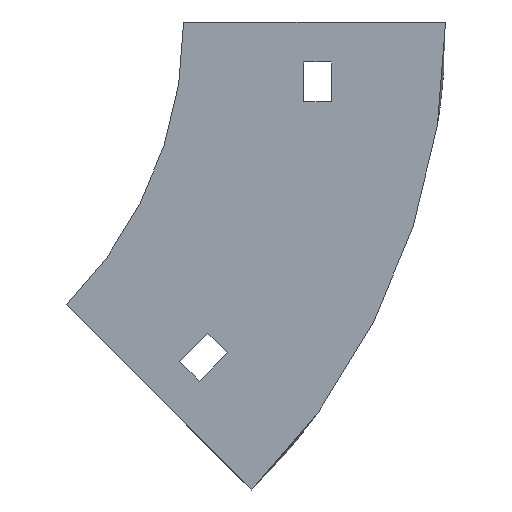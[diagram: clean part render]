
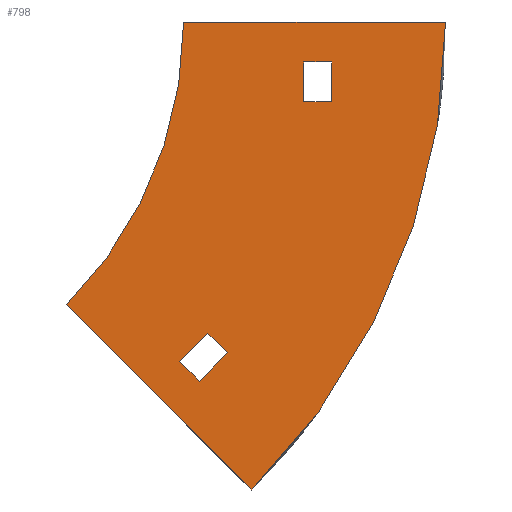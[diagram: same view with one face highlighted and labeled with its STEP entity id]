
A CAD part, left-side view. The second image highlights one B-rep face of the part: STEP entity #798.
In plain terms, the highlighted planar face has unit normal (-1, 0, 0).
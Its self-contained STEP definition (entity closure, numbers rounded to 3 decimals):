
#26 = ORIENTED_EDGE ( 'NONE', *, *, #260, .F. ) ;
#33 = EDGE_CURVE ( 'NONE', #695, #817, #275, .T. ) ;
#64 = VERTEX_POINT ( 'NONE', #1017 ) ;
#68 = CARTESIAN_POINT ( 'NONE',  ( -252., -30., -10. ) ) ;
#74 = VECTOR ( 'NONE', #489, 1000. ) ;
#85 = DIRECTION ( 'NONE',  ( 0., 0.707, -0.707 ) ) ;
#97 = CARTESIAN_POINT ( 'NONE',  ( -252., -65.5, 0. ) ) ;
#111 = EDGE_CURVE ( 'NONE', #64, #695, #728, .T. ) ;
#130 = CARTESIAN_POINT ( 'NONE',  ( -252., -37., -20. ) ) ;
#135 = CARTESIAN_POINT ( 'NONE',  ( -252., 29.289, -70.711 ) ) ;
#139 = CARTESIAN_POINT ( 'NONE',  ( -252., -3.945, -89.803 ) ) ;
#164 = CARTESIAN_POINT ( 'NONE',  ( -252., 0., 0. ) ) ;
#167 = DIRECTION ( 'NONE',  ( 1., 0., 0. ) ) ;
#171 = VECTOR ( 'NONE', #717, 1000. ) ;
#172 = VERTEX_POINT ( 'NONE', #130 ) ;
#179 = CIRCLE ( 'NONE', #1110, 165.5 ) ;
#181 = EDGE_CURVE ( 'NONE', #345, #516, #179, .T. ) ;
#185 = CARTESIAN_POINT ( 'NONE',  ( -252., -65.5, 0. ) ) ;
#203 = ORIENTED_EDGE ( 'NONE', *, *, #181, .F. ) ;
#219 = VECTOR ( 'NONE', #1038, 1000. ) ;
#225 = EDGE_CURVE ( 'NONE', #712, #64, #1048, .T. ) ;
#233 = ORIENTED_EDGE ( 'NONE', *, *, #806, .T. ) ;
#246 = VERTEX_POINT ( 'NONE', #684 ) ;
#251 = ORIENTED_EDGE ( 'NONE', *, *, #746, .T. ) ;
#260 = EDGE_CURVE ( 'NONE', #516, #324, #678, .T. ) ;
#275 = LINE ( 'NONE', #436, #812 ) ;
#286 = CARTESIAN_POINT ( 'NONE',  ( -252., -30., -20. ) ) ;
#311 = EDGE_LOOP ( 'NONE', ( #617, #26, #203, #551 ) ) ;
#322 = CARTESIAN_POINT ( 'NONE',  ( -252., 29.289, -70.711 ) ) ;
#324 = VERTEX_POINT ( 'NONE', #322 ) ;
#326 = DIRECTION ( 'NONE',  ( 0., 0., -1. ) ) ;
#342 = DIRECTION ( 'NONE',  ( 0., 0., -1. ) ) ;
#345 = VERTEX_POINT ( 'NONE', #185 ) ;
#354 = VERTEX_POINT ( 'NONE', #164 ) ;
#355 = AXIS2_PLACEMENT_3D ( 'NONE', #820, #922, #842 ) ;
#358 = EDGE_CURVE ( 'NONE', #817, #712, #541, .T. ) ;
#371 = DIRECTION ( 'NONE',  ( 1., 0., 0. ) ) ;
#379 = LINE ( 'NONE', #729, #734 ) ;
#400 = DIRECTION ( 'NONE',  ( 0., 0.707, 0.707 ) ) ;
#415 = CARTESIAN_POINT ( 'NONE',  ( -252., 100., 0. ) ) ;
#436 = CARTESIAN_POINT ( 'NONE',  ( -252., 1.005, -84.853 ) ) ;
#437 = LINE ( 'NONE', #68, #1037 ) ;
#443 = VECTOR ( 'NONE', #400, 1000. ) ;
#444 = CARTESIAN_POINT ( 'NONE',  ( -252., 1.005, -84.853 ) ) ;
#456 = ORIENTED_EDGE ( 'NONE', *, *, #225, .F. ) ;
#472 = EDGE_CURVE ( 'NONE', #324, #354, #863, .T. ) ;
#489 = DIRECTION ( 'NONE',  ( 0., -0.707, 0.707 ) ) ;
#512 = LINE ( 'NONE', #765, #1005 ) ;
#516 = VERTEX_POINT ( 'NONE', #903 ) ;
#518 = FACE_BOUND ( 'NONE', #1039, .T. ) ;
#535 = ORIENTED_EDGE ( 'NONE', *, *, #1090, .T. ) ;
#541 = LINE ( 'NONE', #444, #171 ) ;
#551 = ORIENTED_EDGE ( 'NONE', *, *, #902, .F. ) ;
#554 = DIRECTION ( 'NONE',  ( 0., 0., -1. ) ) ;
#559 = CARTESIAN_POINT ( 'NONE',  ( -252., 100., 0. ) ) ;
#560 = CARTESIAN_POINT ( 'NONE',  ( -252., -30., -10. ) ) ;
#573 = CARTESIAN_POINT ( 'NONE',  ( -252., -6.066, -77.782 ) ) ;
#588 = CARTESIAN_POINT ( 'NONE',  ( -252., 1.005, -84.853 ) ) ;
#615 = VECTOR ( 'NONE', #326, 1000. ) ;
#617 = ORIENTED_EDGE ( 'NONE', *, *, #472, .F. ) ;
#618 = DIRECTION ( 'NONE',  ( 0., -1., 0. ) ) ;
#640 = CARTESIAN_POINT ( 'NONE',  ( -252., -6.066, -77.782 ) ) ;
#663 = ORIENTED_EDGE ( 'NONE', *, *, #33, .F. ) ;
#669 = EDGE_LOOP ( 'NONE', ( #954, #663, #731, #456 ) ) ;
#678 = LINE ( 'NONE', #135, #219 ) ;
#683 = DIRECTION ( 'NONE',  ( 0., 1., 0. ) ) ;
#684 = CARTESIAN_POINT ( 'NONE',  ( -252., -37., -10. ) ) ;
#695 = VERTEX_POINT ( 'NONE', #573 ) ;
#712 = VERTEX_POINT ( 'NONE', #751 ) ;
#717 = DIRECTION ( 'NONE',  ( 0., -0.707, -0.707 ) ) ;
#728 = LINE ( 'NONE', #640, #443 ) ;
#729 = CARTESIAN_POINT ( 'NONE',  ( -252., -30., -10. ) ) ;
#731 = ORIENTED_EDGE ( 'NONE', *, *, #111, .F. ) ;
#734 = VECTOR ( 'NONE', #1088, 1000. ) ;
#746 = EDGE_CURVE ( 'NONE', #246, #172, #1127, .T. ) ;
#751 = CARTESIAN_POINT ( 'NONE',  ( -252., -3.945, -89.803 ) ) ;
#765 = CARTESIAN_POINT ( 'NONE',  ( -252., -30., -20. ) ) ;
#766 = AXIS2_PLACEMENT_3D ( 'NONE', #415, #167, #342 ) ;
#798 = ADVANCED_FACE ( 'NONE', ( #1134, #518, #874 ), #949, .F. ) ;
#804 = ORIENTED_EDGE ( 'NONE', *, *, #1140, .T. ) ;
#806 = EDGE_CURVE ( 'NONE', #172, #856, #512, .T. ) ;
#811 = LINE ( 'NONE', #97, #864 ) ;
#812 = VECTOR ( 'NONE', #85, 1000. ) ;
#817 = VERTEX_POINT ( 'NONE', #588 ) ;
#820 = CARTESIAN_POINT ( 'NONE',  ( -252., 100., 0. ) ) ;
#842 = DIRECTION ( 'NONE',  ( 0., 0., -1. ) ) ;
#856 = VERTEX_POINT ( 'NONE', #286 ) ;
#863 = CIRCLE ( 'NONE', #355, 100. ) ;
#864 = VECTOR ( 'NONE', #618, 1000. ) ;
#874 = FACE_BOUND ( 'NONE', #669, .T. ) ;
#902 = EDGE_CURVE ( 'NONE', #354, #345, #811, .T. ) ;
#903 = CARTESIAN_POINT ( 'NONE',  ( -252., -17.026, -117.026 ) ) ;
#922 = DIRECTION ( 'NONE',  ( -1., 0., 0. ) ) ;
#949 = PLANE ( 'NONE',  #766 ) ;
#954 = ORIENTED_EDGE ( 'NONE', *, *, #358, .F. ) ;
#960 = DIRECTION ( 'NONE',  ( 0., 0., 1. ) ) ;
#1005 = VECTOR ( 'NONE', #683, 1000. ) ;
#1017 = CARTESIAN_POINT ( 'NONE',  ( -252., -11.016, -82.731 ) ) ;
#1037 = VECTOR ( 'NONE', #960, 1000. ) ;
#1038 = DIRECTION ( 'NONE',  ( 0., 0.707, 0.707 ) ) ;
#1039 = EDGE_LOOP ( 'NONE', ( #804, #535, #251, #233 ) ) ;
#1048 = LINE ( 'NONE', #139, #74 ) ;
#1062 = VERTEX_POINT ( 'NONE', #560 ) ;
#1088 = DIRECTION ( 'NONE',  ( 0., -1., 0. ) ) ;
#1090 = EDGE_CURVE ( 'NONE', #1062, #246, #379, .T. ) ;
#1110 = AXIS2_PLACEMENT_3D ( 'NONE', #559, #371, #554 ) ;
#1123 = CARTESIAN_POINT ( 'NONE',  ( -252., -37., -10. ) ) ;
#1127 = LINE ( 'NONE', #1123, #615 ) ;
#1134 = FACE_OUTER_BOUND ( 'NONE', #311, .T. ) ;
#1140 = EDGE_CURVE ( 'NONE', #856, #1062, #437, .T. ) ;
